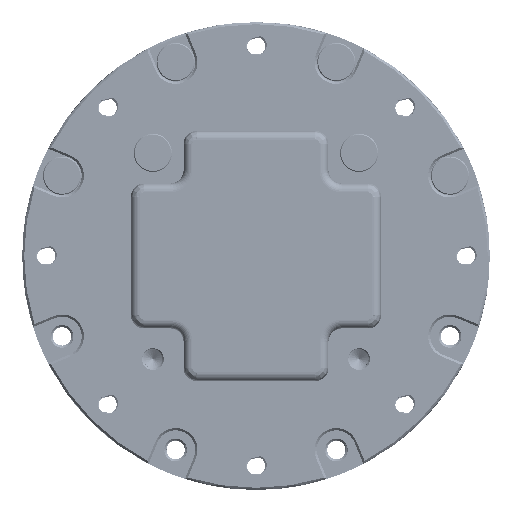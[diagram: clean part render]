
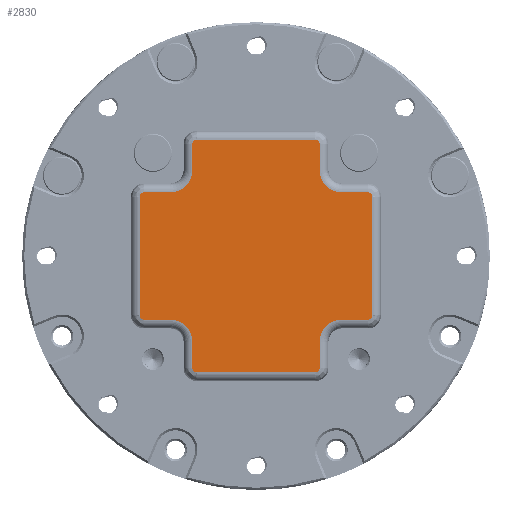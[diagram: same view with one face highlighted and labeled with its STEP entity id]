
A CAD part, front view. The second image highlights one B-rep face of the part: STEP entity #2830.
In plain terms, the highlighted planar face has unit normal (0, -1, 0).
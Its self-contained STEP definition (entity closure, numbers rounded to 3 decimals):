
#1014=PLANE('',#25392);
#1680=FACE_OUTER_BOUND('',#6403,.T.);
#2830=ADVANCED_FACE('',(#1680),#1014,.T.);
#6403=EDGE_LOOP('',(#12108,#12109,#12110,#12111,#12112,#12113,#12114,#12115,
#12116,#12117,#12118,#12119,#12120,#12121,#12122,#12123,#12124,#12125,#12126,
#12127,#12128,#12129,#12130,#12131));
#8316=CIRCLE('',#25380,1.);
#8317=CIRCLE('',#25381,1.);
#8318=CIRCLE('',#25382,5.);
#8319=CIRCLE('',#25383,1.);
#8320=CIRCLE('',#25384,1.);
#8321=CIRCLE('',#25385,5.);
#8322=CIRCLE('',#25386,1.);
#8323=CIRCLE('',#25387,1.);
#8324=CIRCLE('',#25388,5.);
#8325=CIRCLE('',#25389,1.);
#8326=CIRCLE('',#25390,1.);
#8327=CIRCLE('',#25391,5.);
#12108=ORIENTED_EDGE('',*,*,#20161,.T.);
#12109=ORIENTED_EDGE('',*,*,#20162,.T.);
#12110=ORIENTED_EDGE('',*,*,#20163,.T.);
#12111=ORIENTED_EDGE('',*,*,#20164,.T.);
#12112=ORIENTED_EDGE('',*,*,#20165,.T.);
#12113=ORIENTED_EDGE('',*,*,#20166,.T.);
#12114=ORIENTED_EDGE('',*,*,#20167,.T.);
#12115=ORIENTED_EDGE('',*,*,#20168,.T.);
#12116=ORIENTED_EDGE('',*,*,#20169,.T.);
#12117=ORIENTED_EDGE('',*,*,#20170,.T.);
#12118=ORIENTED_EDGE('',*,*,#20171,.T.);
#12119=ORIENTED_EDGE('',*,*,#20172,.T.);
#12120=ORIENTED_EDGE('',*,*,#20173,.T.);
#12121=ORIENTED_EDGE('',*,*,#20174,.T.);
#12122=ORIENTED_EDGE('',*,*,#20175,.T.);
#12123=ORIENTED_EDGE('',*,*,#20176,.T.);
#12124=ORIENTED_EDGE('',*,*,#20177,.T.);
#12125=ORIENTED_EDGE('',*,*,#20178,.T.);
#12126=ORIENTED_EDGE('',*,*,#20179,.T.);
#12127=ORIENTED_EDGE('',*,*,#20180,.T.);
#12128=ORIENTED_EDGE('',*,*,#20181,.T.);
#12129=ORIENTED_EDGE('',*,*,#20182,.T.);
#12130=ORIENTED_EDGE('',*,*,#20183,.T.);
#12131=ORIENTED_EDGE('',*,*,#20184,.T.);
#17519=VERTEX_POINT('',#132127);
#17520=VERTEX_POINT('',#132128);
#17521=VERTEX_POINT('',#132130);
#17522=VERTEX_POINT('',#132132);
#17523=VERTEX_POINT('',#132134);
#17524=VERTEX_POINT('',#132136);
#17525=VERTEX_POINT('',#132138);
#17526=VERTEX_POINT('',#132140);
#17527=VERTEX_POINT('',#132142);
#17528=VERTEX_POINT('',#132144);
#17529=VERTEX_POINT('',#132146);
#17530=VERTEX_POINT('',#132148);
#17531=VERTEX_POINT('',#132150);
#17532=VERTEX_POINT('',#132152);
#17533=VERTEX_POINT('',#132154);
#17534=VERTEX_POINT('',#132156);
#17535=VERTEX_POINT('',#132158);
#17536=VERTEX_POINT('',#132160);
#17537=VERTEX_POINT('',#132162);
#17538=VERTEX_POINT('',#132164);
#17539=VERTEX_POINT('',#132166);
#17540=VERTEX_POINT('',#132168);
#17541=VERTEX_POINT('',#132170);
#17542=VERTEX_POINT('',#132172);
#20161=EDGE_CURVE('',#17519,#17520,#22837,.T.);
#20162=EDGE_CURVE('',#17520,#17521,#8316,.T.);
#20163=EDGE_CURVE('',#17521,#17522,#22838,.T.);
#20164=EDGE_CURVE('',#17522,#17523,#8317,.T.);
#20165=EDGE_CURVE('',#17523,#17524,#22839,.T.);
#20166=EDGE_CURVE('',#17524,#17525,#8318,.T.);
#20167=EDGE_CURVE('',#17525,#17526,#22840,.T.);
#20168=EDGE_CURVE('',#17526,#17527,#8319,.T.);
#20169=EDGE_CURVE('',#17527,#17528,#22841,.T.);
#20170=EDGE_CURVE('',#17528,#17529,#8320,.T.);
#20171=EDGE_CURVE('',#17529,#17530,#22842,.T.);
#20172=EDGE_CURVE('',#17530,#17531,#8321,.T.);
#20173=EDGE_CURVE('',#17531,#17532,#22843,.T.);
#20174=EDGE_CURVE('',#17532,#17533,#8322,.T.);
#20175=EDGE_CURVE('',#17533,#17534,#22844,.T.);
#20176=EDGE_CURVE('',#17534,#17535,#8323,.T.);
#20177=EDGE_CURVE('',#17535,#17536,#22845,.T.);
#20178=EDGE_CURVE('',#17536,#17537,#8324,.T.);
#20179=EDGE_CURVE('',#17537,#17538,#22846,.T.);
#20180=EDGE_CURVE('',#17538,#17539,#8325,.T.);
#20181=EDGE_CURVE('',#17539,#17540,#22847,.T.);
#20182=EDGE_CURVE('',#17540,#17541,#8326,.T.);
#20183=EDGE_CURVE('',#17541,#17542,#22848,.T.);
#20184=EDGE_CURVE('',#17542,#17519,#8327,.T.);
#22837=LINE('',#132126,#23966);
#22838=LINE('',#132131,#23967);
#22839=LINE('',#132135,#23968);
#22840=LINE('',#132139,#23969);
#22841=LINE('',#132143,#23970);
#22842=LINE('',#132147,#23971);
#22843=LINE('',#132151,#23972);
#22844=LINE('',#132155,#23973);
#22845=LINE('',#132159,#23974);
#22846=LINE('',#132163,#23975);
#22847=LINE('',#132167,#23976);
#22848=LINE('',#132171,#23977);
#23966=VECTOR('',#28778,1.);
#23967=VECTOR('',#28781,1.);
#23968=VECTOR('',#28784,1.);
#23969=VECTOR('',#28787,1.);
#23970=VECTOR('',#28790,1.);
#23971=VECTOR('',#28793,1.);
#23972=VECTOR('',#28796,1.);
#23973=VECTOR('',#28799,1.);
#23974=VECTOR('',#28802,1.);
#23975=VECTOR('',#28805,1.);
#23976=VECTOR('',#28808,1.);
#23977=VECTOR('',#28811,1.);
#25380=AXIS2_PLACEMENT_3D('',#132129,#28779,#28780);
#25381=AXIS2_PLACEMENT_3D('',#132133,#28782,#28783);
#25382=AXIS2_PLACEMENT_3D('',#132137,#28785,#28786);
#25383=AXIS2_PLACEMENT_3D('',#132141,#28788,#28789);
#25384=AXIS2_PLACEMENT_3D('',#132145,#28791,#28792);
#25385=AXIS2_PLACEMENT_3D('',#132149,#28794,#28795);
#25386=AXIS2_PLACEMENT_3D('',#132153,#28797,#28798);
#25387=AXIS2_PLACEMENT_3D('',#132157,#28800,#28801);
#25388=AXIS2_PLACEMENT_3D('',#132161,#28803,#28804);
#25389=AXIS2_PLACEMENT_3D('',#132165,#28806,#28807);
#25390=AXIS2_PLACEMENT_3D('',#132169,#28809,#28810);
#25391=AXIS2_PLACEMENT_3D('',#132173,#28812,#28813);
#25392=AXIS2_PLACEMENT_3D('',#132174,#28814,#28815);
#28778=DIRECTION('',(1.,0.,0.));
#28779=DIRECTION('',(0.,-1.,0.));
#28780=DIRECTION('',(-1.,0.,0.));
#28781=DIRECTION('',(0.,0.,1.));
#28782=DIRECTION('',(0.,-1.,0.));
#28783=DIRECTION('',(-1.,0.,0.));
#28784=DIRECTION('',(-1.,0.,0.));
#28785=DIRECTION('',(0.,1.,0.));
#28786=DIRECTION('',(-1.,0.,0.));
#28787=DIRECTION('',(0.,0.,1.));
#28788=DIRECTION('',(0.,-1.,0.));
#28789=DIRECTION('',(-1.,0.,0.));
#28790=DIRECTION('',(-1.,0.,0.));
#28791=DIRECTION('',(0.,-1.,0.));
#28792=DIRECTION('',(-1.,0.,0.));
#28793=DIRECTION('',(0.,0.,-1.));
#28794=DIRECTION('',(0.,1.,0.));
#28795=DIRECTION('',(-1.,0.,0.));
#28796=DIRECTION('',(-1.,0.,0.));
#28797=DIRECTION('',(0.,-1.,0.));
#28798=DIRECTION('',(-1.,0.,0.));
#28799=DIRECTION('',(0.,0.,-1.));
#28800=DIRECTION('',(0.,-1.,0.));
#28801=DIRECTION('',(-1.,0.,0.));
#28802=DIRECTION('',(1.,0.,0.));
#28803=DIRECTION('',(0.,1.,0.));
#28804=DIRECTION('',(-1.,0.,0.));
#28805=DIRECTION('',(0.,0.,-1.));
#28806=DIRECTION('',(0.,-1.,0.));
#28807=DIRECTION('',(-1.,0.,0.));
#28808=DIRECTION('',(1.,0.,0.));
#28809=DIRECTION('',(0.,-1.,0.));
#28810=DIRECTION('',(-1.,0.,0.));
#28811=DIRECTION('',(0.,0.,1.));
#28812=DIRECTION('',(0.,1.,0.));
#28813=DIRECTION('',(-1.,0.,0.));
#28814=DIRECTION('',(0.,-1.,0.));
#28815=DIRECTION('',(-1.,0.,0.));
#132126=CARTESIAN_POINT('',(0.,-91.15,-14.57));
#132127=CARTESIAN_POINT('',(19.57,-91.15,-14.57));
#132128=CARTESIAN_POINT('',(25.575,-91.15,-14.57));
#132129=CARTESIAN_POINT('',(25.575,-91.15,-13.57));
#132130=CARTESIAN_POINT('',(26.575,-91.15,-13.57));
#132131=CARTESIAN_POINT('',(26.575,-91.15,13.57));
#132132=CARTESIAN_POINT('',(26.575,-91.15,13.57));
#132133=CARTESIAN_POINT('',(25.575,-91.15,13.57));
#132134=CARTESIAN_POINT('',(25.575,-91.15,14.57));
#132135=CARTESIAN_POINT('',(0.,-91.15,14.57));
#132136=CARTESIAN_POINT('',(19.57,-91.15,14.57));
#132137=CARTESIAN_POINT('',(19.57,-91.15,19.57));
#132138=CARTESIAN_POINT('',(14.57,-91.15,19.57));
#132139=CARTESIAN_POINT('',(14.57,-91.15,0.));
#132140=CARTESIAN_POINT('',(14.57,-91.15,25.575));
#132141=CARTESIAN_POINT('',(13.57,-91.15,25.575));
#132142=CARTESIAN_POINT('',(13.57,-91.15,26.575));
#132143=CARTESIAN_POINT('',(-13.57,-91.15,26.575));
#132144=CARTESIAN_POINT('',(-13.57,-91.15,26.575));
#132145=CARTESIAN_POINT('',(-13.57,-91.15,25.575));
#132146=CARTESIAN_POINT('',(-14.57,-91.15,25.575));
#132147=CARTESIAN_POINT('',(-14.57,-91.15,0.));
#132148=CARTESIAN_POINT('',(-14.57,-91.15,19.57));
#132149=CARTESIAN_POINT('',(-19.57,-91.15,19.57));
#132150=CARTESIAN_POINT('',(-19.57,-91.15,14.57));
#132151=CARTESIAN_POINT('',(0.,-91.15,14.57));
#132152=CARTESIAN_POINT('',(-25.575,-91.15,14.57));
#132153=CARTESIAN_POINT('',(-25.575,-91.15,13.57));
#132154=CARTESIAN_POINT('',(-26.575,-91.15,13.57));
#132155=CARTESIAN_POINT('',(-26.575,-91.15,-13.57));
#132156=CARTESIAN_POINT('',(-26.575,-91.15,-13.57));
#132157=CARTESIAN_POINT('',(-25.575,-91.15,-13.57));
#132158=CARTESIAN_POINT('',(-25.575,-91.15,-14.57));
#132159=CARTESIAN_POINT('',(0.,-91.15,-14.57));
#132160=CARTESIAN_POINT('',(-19.57,-91.15,-14.57));
#132161=CARTESIAN_POINT('',(-19.57,-91.15,-19.57));
#132162=CARTESIAN_POINT('',(-14.57,-91.15,-19.57));
#132163=CARTESIAN_POINT('',(-14.57,-91.15,0.));
#132164=CARTESIAN_POINT('',(-14.57,-91.15,-25.575));
#132165=CARTESIAN_POINT('',(-13.57,-91.15,-25.575));
#132166=CARTESIAN_POINT('',(-13.57,-91.15,-26.575));
#132167=CARTESIAN_POINT('',(13.57,-91.15,-26.575));
#132168=CARTESIAN_POINT('',(13.57,-91.15,-26.575));
#132169=CARTESIAN_POINT('',(13.57,-91.15,-25.575));
#132170=CARTESIAN_POINT('',(14.57,-91.15,-25.575));
#132171=CARTESIAN_POINT('',(14.57,-91.15,0.));
#132172=CARTESIAN_POINT('',(14.57,-91.15,-19.57));
#132173=CARTESIAN_POINT('',(19.57,-91.15,-19.57));
#132174=CARTESIAN_POINT('',(0.,-91.15,0.));
